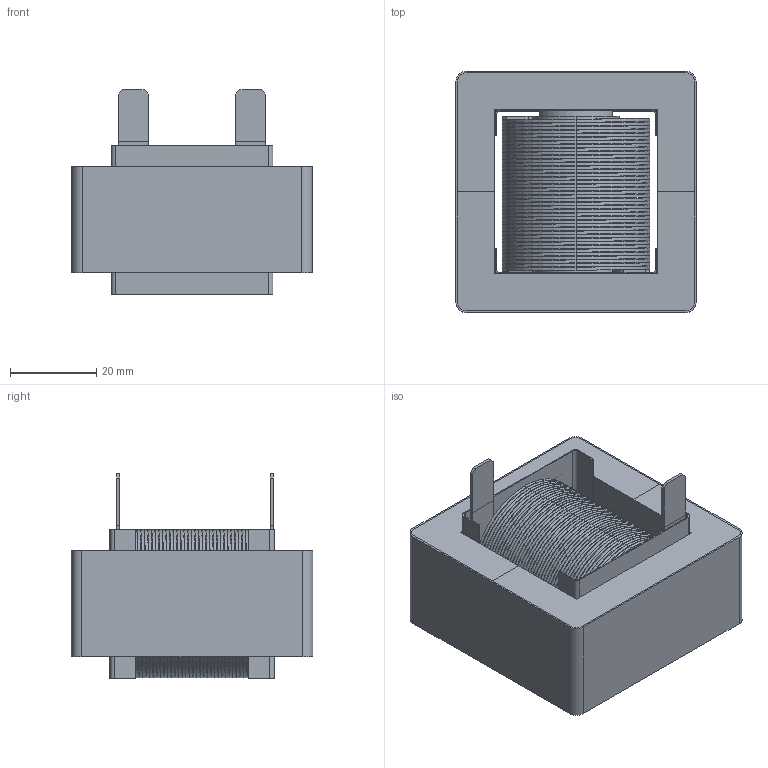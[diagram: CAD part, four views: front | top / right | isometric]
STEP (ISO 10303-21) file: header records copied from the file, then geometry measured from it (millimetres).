
FILE_DESCRIPTION (( 'STEP AP214' ), '1' );
FILE_NAME ('EK55246-341M-40AH.STEP', '2021-04-13T10:24:49', ( '' ), ( '' ), 'SwSTEP 2.0', 'SolidWorks 2015', '' );
FILE_SCHEMA (( 'AUTOMOTIVE_DESIGN' ));
Length unit declared in the file: millimetre
Products named in the file (6): CENTER MYLAR; E CORE; SIDE MYLAR; WRAPPER; HELICAL COIL; EK55246-341M-40AH
Assembly tree (7 placements, depth 2):
  EK55246-341M-40AH
    HELICAL COIL
    E CORE  x2
    SIDE MYLAR  x2
    CENTER MYLAR
    WRAPPER
Bounding box: 55.62 x 55.9 x 47.35 mm (x, y, z)
Volume: 70385.3 mm3; surface area: 92927.2 mm2
Topology: 9 solids, 9 shells, 444 faces, 1216 edges, 808 vertices
Faces by surface type: cylinder 204, plane 181, bspline 59
Entity records: 22614 total; most frequent: CARTESIAN_POINT 11466, ORIENTED_EDGE 2264, DIRECTION 1440, EDGE_CURVE 1132, VERTEX_POINT 752, LINE 628, VECTOR 628, EDGE_LOOP 434
